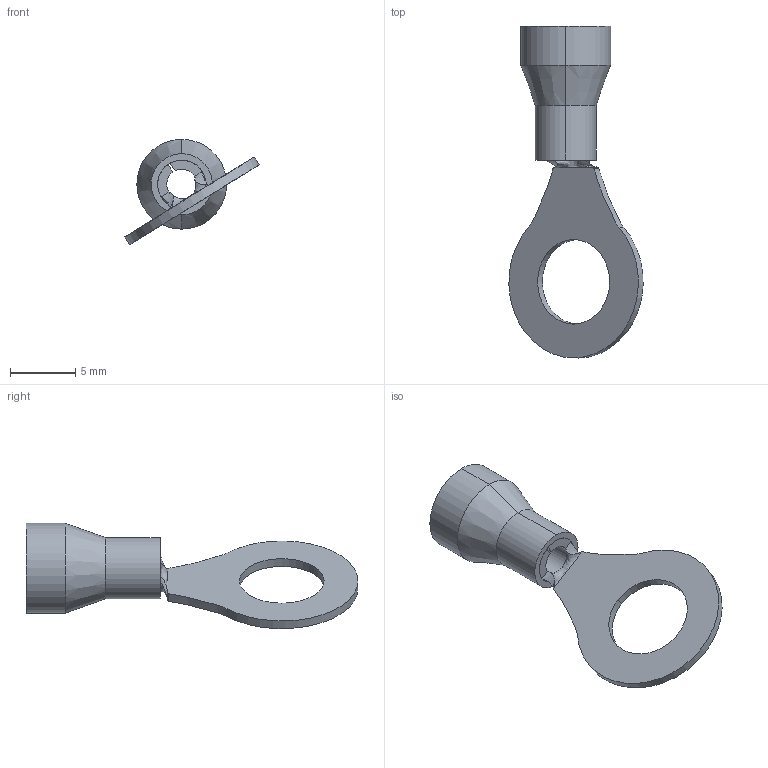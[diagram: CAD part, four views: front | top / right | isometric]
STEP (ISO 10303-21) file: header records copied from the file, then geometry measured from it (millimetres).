
FILE_DESCRIPTION (( 'STEP AP214' ), '1' );
FILE_NAME ('278075 Optikit T-K-PVC-2-6.STEP', '2020-02-19T09:50:50', ( '' ), ( '' ), 'SwSTEP 2.0', 'SolidWorks 2018', '' );
FILE_SCHEMA (( 'AUTOMOTIVE_DESIGN' ));
Length unit declared in the file: millimetre
Products named in the file (3): ﾍﾊﾈ-RVL 2-6; Îïëåòêà 2; 278075 Optikit T-K-PVC-2-6
Assembly tree (2 placements, depth 2):
  278075 Optikit T-K-PVC-2-6
    Îïëåòêà 2
    ﾍﾊﾈ-RVL 2-6
Bounding box: 10.31 x 25.5 x 8.09 mm (x, y, z)
Volume: 184.9 mm3; surface area: 684.9 mm2
Topology: 2 solids, 2 shells, 40 faces, 94 edges, 56 vertices
Faces by surface type: cylinder 17, bspline 10, plane 9, cone 4
Entity records: 1599 total; most frequent: CARTESIAN_POINT 650, ORIENTED_EDGE 184, DIRECTION 162, EDGE_CURVE 92, AXIS2_PLACEMENT_3D 65, VERTEX_POINT 56, EDGE_LOOP 44, FACE_OUTER_BOUND 40
